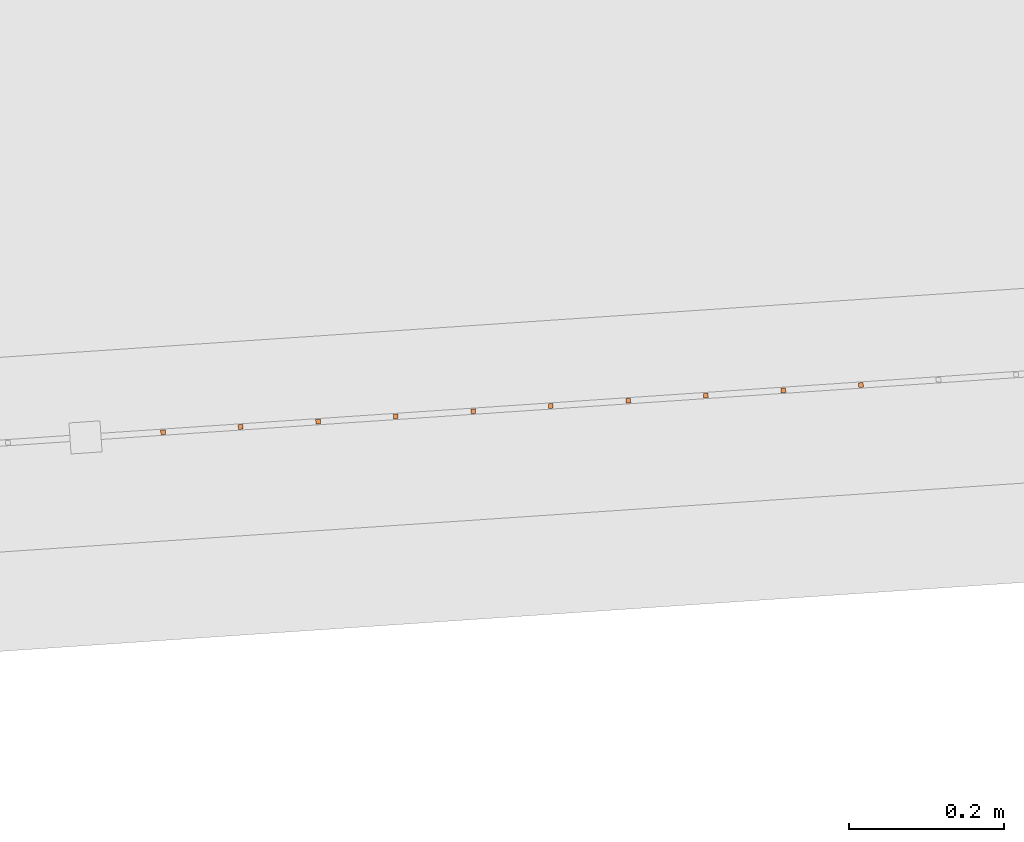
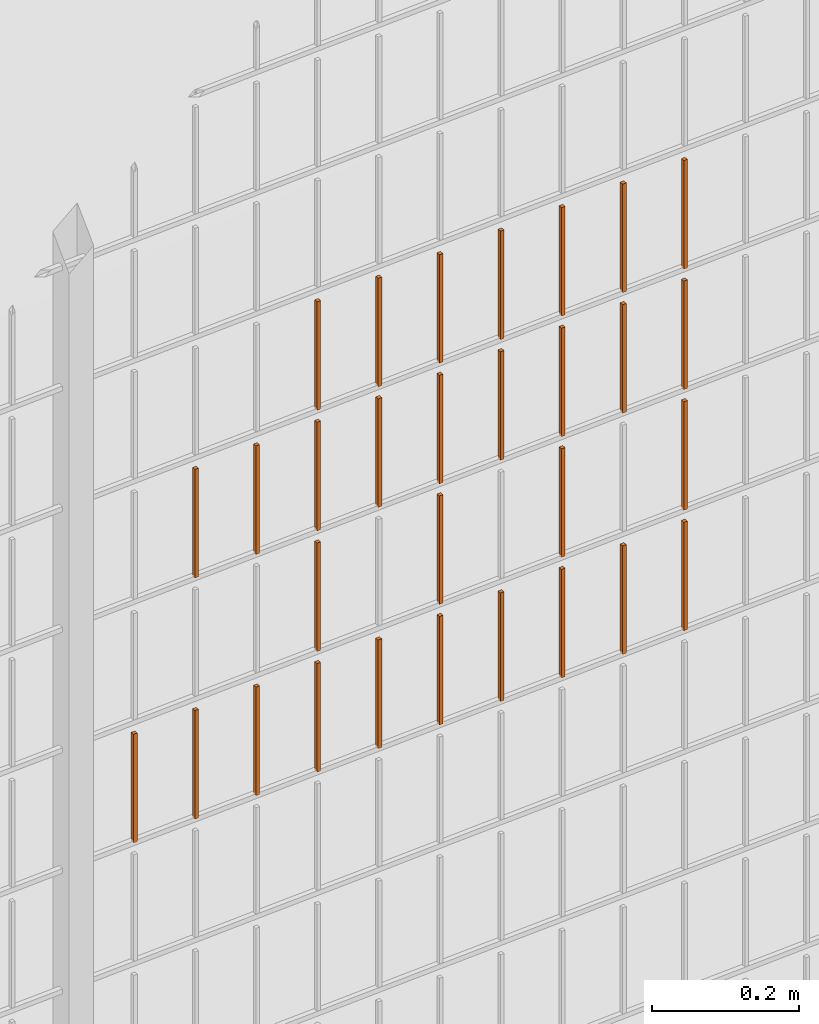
# One storey, part 211 of 1809: 30 proxies, 1 element without a shape of its own.
"""IFC2X3 building model written with IfcOpenShell, lengths in millimetres."""

from ifc_helpers import new_model, entity, si_unit, converted_unit, derived_unit, money_unit, direction, frame, origin_with_axes, place, context, subcontext, project, spatial, faceted_brep, source, transform, mapped, material, type_object, element, aggregate, save


model = new_model("IFC2X3")

# Units and contexts
model_context = context("Model", 3, precision=0.01, world=origin_with_axes(), true_north=direction((0.0, 1.0)))
body_context = subcontext(model_context, "Body", "Model", "MODEL_VIEW")
ifc_project = project(units=[si_unit("LENGTHUNIT", "METRE", prefix="MILLI"), si_unit("AREAUNIT", "SQUARE_METRE"), si_unit("VOLUMEUNIT", "CUBIC_METRE"), converted_unit("PLANEANGLEUNIT", "DEGREE", entity("IfcPlaneAngleMeasure", 0.0174532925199), si_unit("PLANEANGLEUNIT", "RADIAN"), dimensions=[0, 0, 0, 0, 0, 0, 0]), si_unit("SOLIDANGLEUNIT", "STERADIAN"), money_unit("EUR"), converted_unit("TIMEUNIT", "Year", entity("IfcTimeMeasure", 31556926.0), si_unit("TIMEUNIT", "SECOND"), dimensions=[0, 0, 1, 0, 0, 0, 0]), si_unit("MASSUNIT", "GRAM", prefix="KILO"), si_unit("THERMODYNAMICTEMPERATUREUNIT", "DEGREE_CELSIUS"), si_unit("LUMINOUSINTENSITYUNIT", "LUMEN"), si_unit("ENERGYUNIT", "JOULE", prefix="MEGA"), derived_unit("THERMALCONDUCTANCEUNIT", [(si_unit("POWERUNIT", "WATT"), 1), (si_unit("LENGTHUNIT", "METRE"), -1), (si_unit("THERMODYNAMICTEMPERATUREUNIT", "KELVIN"), -1)]), derived_unit("SPECIFICHEATCAPACITYUNIT", [(si_unit("ENERGYUNIT", "JOULE"), 1), (si_unit("MASSUNIT", "GRAM", prefix="KILO"), -1), (si_unit("THERMODYNAMICTEMPERATUREUNIT", "KELVIN"), -1)]), derived_unit("MASSDENSITYUNIT", [(si_unit("MASSUNIT", "GRAM", prefix="KILO"), 1), (si_unit("VOLUMEUNIT", "CUBIC_METRE"), -1)])], contexts=[model_context])

# Site, building, storey
site_placement = place(None, origin_with_axes())
site = spatial("IfcSite", under=ifc_project, at=site_placement, Name="Politse- ja Piirivalveameti ning Päästeameti ühishoone", CompositionType="ELEMENT")
building_placement = place(site_placement, origin_with_axes())
building = spatial("IfcBuilding", under=site, at=building_placement, Name="Politse- ja Piirivalveameti ning Päästeameti ühishoone", CompositionType="ELEMENT")
storey_placement = place(building_placement, origin_with_axes())
storey = spatial("IfcBuildingStorey", under=building, at=storey_placement, Name="Esimene korrus", CompositionType="ELEMENT", Elevation=0.0)

# Proxies
building_element_proxy_type_1 = type_object("IfcBuildingElementProxyType", Name="Railing Type", PredefinedType="NOTDEFINED")
proxy_1_placement = place(storey_placement, frame((89252.001212, -29183.4766571, 203.661247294), z_axis=(0.0, 0.0, 1.0), x_axis=(1.0, 0.0, 0.0)))
proxy_1 = element("IfcBuildingElementProxy", 1, at=proxy_1_placement, inside=storey, type_object=building_element_proxy_type_1, Name="PIIRDEAED")
ifc_material = material(Name="ET-03_Raud")
building_element_proxy_type_2 = type_object("IfcBuildingElementProxyType", Name="IfcBuildingElementProxy", PredefinedType="NOTDEFINED")
shared_shape_1 = source(origin_with_axes(), body_context, "Body", "Brep", [
    faceted_brep([(3.0, 3.0, -0.000752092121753), (-3.0, 3.0, -0.000752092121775), (-3.0, 3.0, 179.99926046), (3.0, 3.0, 179.99926046), (3.0, -3.0, 0.000752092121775), (-3.0, -3.0, 0.000752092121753), (-3.0, -3.0, 180.000764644), (3.0, -3.0, 180.000764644)], [[[0, 1, 2, 3]], [[0, 4, 5, 1]], [[1, 5, 6, 2]], [[3, 2, 6, 7]], [[4, 0, 3, 7]], [[5, 4, 7, 6]]]),
])
proxy_2_placement = place(proxy_1_placement, frame((-61187.2635985, -21430.7435053, 1211.85994589), z_axis=(0.0, 0.0, 1.0), x_axis=(1.0, 0.0, 0.0)))
proxy_2 = element("IfcBuildingElementProxy", 2, at=proxy_2_placement, type_object=building_element_proxy_type_2, material=ifc_material, Name="BALUSTER - 001", context=body_context, shape_type="MappedRepresentation", body=[
    mapped(shared_shape_1, transform((0.0, 0.0, 0.0), x_axis=(-0.0673926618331, 0.997726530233, 0.0), y_axis=(-0.997726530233, -0.0673926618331, 0.0), z_axis=(0.0, 0.0, 1.0))),
])
shared_shape_2 = source(origin_with_axes(), body_context, "Body", "Brep", [
    faceted_brep([(3.0, 3.0, -0.000752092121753), (-3.0, 3.0, -0.000752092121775), (-3.0, 3.0, 179.99926046), (3.0, 3.0, 179.99926046), (3.0, -3.0, 0.000752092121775), (-3.0, -3.0, 0.000752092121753), (-3.0, -3.0, 180.000764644), (3.0, -3.0, 180.000764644)], [[[0, 1, 2, 3]], [[0, 4, 5, 1]], [[1, 5, 6, 2]], [[3, 2, 6, 7]], [[4, 0, 3, 7]], [[5, 4, 7, 6]]]),
])
proxy_3_placement = place(proxy_1_placement, frame((-61187.2635985, -21430.7435053, 1411.85994589), z_axis=(0.0, 0.0, 1.0), x_axis=(1.0, 0.0, 0.0)))
proxy_3 = element("IfcBuildingElementProxy", 3, at=proxy_3_placement, type_object=building_element_proxy_type_2, material=ifc_material, Name="BALUSTER - 001", context=body_context, shape_type="MappedRepresentation", body=[
    mapped(shared_shape_2, transform((0.0, 0.0, 0.0), x_axis=(-0.0673926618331, 0.997726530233, 0.0), y_axis=(-0.997726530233, -0.0673926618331, 0.0), z_axis=(0.0, 0.0, 1.0))),
])
shared_shape_3 = source(origin_with_axes(), body_context, "Body", "Brep", [
    faceted_brep([(3.0, 3.0, -0.000752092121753), (-3.0, 3.0, -0.000752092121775), (-3.0, 3.0, 179.99926046), (3.0, 3.0, 179.99926046), (3.0, -3.0, 0.000752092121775), (-3.0, -3.0, 0.000752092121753), (-3.0, -3.0, 180.000764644), (3.0, -3.0, 180.000764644)], [[[0, 1, 2, 3]], [[0, 4, 5, 1]], [[1, 5, 6, 2]], [[3, 2, 6, 7]], [[4, 0, 3, 7]], [[5, 4, 7, 6]]]),
])
proxy_4_placement = place(proxy_1_placement, frame((-61287.0362515, -21437.4827715, 811.834876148), z_axis=(0.0, 0.0, 1.0), x_axis=(1.0, 0.0, 0.0)))
proxy_4 = element("IfcBuildingElementProxy", 4, at=proxy_4_placement, type_object=building_element_proxy_type_2, material=ifc_material, Name="BALUSTER - 001", context=body_context, shape_type="MappedRepresentation", body=[
    mapped(shared_shape_3, transform((0.0, 0.0, 0.0), x_axis=(-0.0673926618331, 0.997726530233, 0.0), y_axis=(-0.997726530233, -0.0673926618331, 0.0), z_axis=(0.0, 0.0, 1.0))),
])
shared_shape_4 = source(origin_with_axes(), body_context, "Body", "Brep", [
    faceted_brep([(3.0, 3.0, -0.000752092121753), (-3.0, 3.0, -0.000752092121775), (-3.0, 3.0, 179.99926046), (3.0, 3.0, 179.99926046), (3.0, -3.0, 0.000752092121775), (-3.0, -3.0, 0.000752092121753), (-3.0, -3.0, 180.000764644), (3.0, -3.0, 180.000764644)], [[[0, 1, 2, 3]], [[0, 4, 5, 1]], [[1, 5, 6, 2]], [[3, 2, 6, 7]], [[4, 0, 3, 7]], [[5, 4, 7, 6]]]),
])
proxy_5_placement = place(proxy_1_placement, frame((-61686.1268636, -21464.4398362, 1211.7345972), z_axis=(0.0, 0.0, 1.0), x_axis=(1.0, 0.0, 0.0)))
proxy_5 = element("IfcBuildingElementProxy", 5, at=proxy_5_placement, type_object=building_element_proxy_type_2, material=ifc_material, Name="BALUSTER - 001", context=body_context, shape_type="MappedRepresentation", body=[
    mapped(shared_shape_4, transform((0.0, 0.0, 0.0), x_axis=(-0.0673926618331, 0.997726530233, 0.0), y_axis=(-0.997726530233, -0.0673926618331, 0.0), z_axis=(0.0, 0.0, 1.0))),
])
shared_shape_5 = source(origin_with_axes(), body_context, "Body", "Brep", [
    faceted_brep([(3.0, 3.0, -0.000752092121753), (-3.0, 3.0, -0.000752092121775), (-3.0, 3.0, 179.99926046), (3.0, 3.0, 179.99926046), (3.0, -3.0, 0.000752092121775), (-3.0, -3.0, 0.000752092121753), (-3.0, -3.0, 180.000764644), (3.0, -3.0, 180.000764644)], [[[0, 1, 2, 3]], [[0, 4, 5, 1]], [[1, 5, 6, 2]], [[3, 2, 6, 7]], [[4, 0, 3, 7]], [[5, 4, 7, 6]]]),
])
proxy_6_placement = place(proxy_1_placement, frame((-61686.1268636, -21464.4398362, 1411.7345972), z_axis=(0.0, 0.0, 1.0), x_axis=(1.0, 0.0, 0.0)))
proxy_6 = element("IfcBuildingElementProxy", 6, at=proxy_6_placement, type_object=building_element_proxy_type_2, material=ifc_material, Name="BALUSTER - 001", context=body_context, shape_type="MappedRepresentation", body=[
    mapped(shared_shape_5, transform((0.0, 0.0, 0.0), x_axis=(-0.0673926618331, 0.997726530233, 0.0), y_axis=(-0.997726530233, -0.0673926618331, 0.0), z_axis=(0.0, 0.0, 1.0))),
])
shared_shape_6 = source(origin_with_axes(), body_context, "Body", "Brep", [
    faceted_brep([(3.0, 3.0, -0.000752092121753), (-3.0, 3.0, -0.000752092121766), (-3.00000000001, 3.00000000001, 179.99926046), (2.99999999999, 3.00000000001, 179.99926046), (3.0, -3.0, 0.000752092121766), (-3.0, -3.0, 0.000752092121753), (-3.00000000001, -2.99999999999, 180.000764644), (2.99999999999, -2.99999999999, 180.000764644)], [[[0, 1, 2, 3]], [[0, 4, 5, 1]], [[1, 5, 6, 2]], [[3, 2, 6, 7]], [[4, 0, 3, 7]], [[5, 4, 7, 6]]]),
])
proxy_7_placement = place(proxy_1_placement, frame((-61386.8089045, -21444.2220376, 1011.80980641), z_axis=(0.0, 0.0, 1.0), x_axis=(1.0, 0.0, 0.0)))
proxy_7 = element("IfcBuildingElementProxy", 7, at=proxy_7_placement, type_object=building_element_proxy_type_2, material=ifc_material, Name="BALUSTER - 001", context=body_context, shape_type="MappedRepresentation", body=[
    mapped(shared_shape_6, transform((0.0, 0.0, 0.0), x_axis=(-0.0673926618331, 0.997726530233, 0.0), y_axis=(-0.997726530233, -0.0673926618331, 0.0), z_axis=(0.0, 0.0, 1.0))),
])
shared_shape_7 = source(origin_with_axes(), body_context, "Body", "Brep", [
    faceted_brep([(3.0, 3.0, -0.000752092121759), (-3.0, 3.0, -0.000752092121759), (-3.0, 3.0, 179.99926046), (3.0, 3.0, 179.99926046), (3.0, -3.0, 0.000752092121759), (-3.0, -3.0, 0.000752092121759), (-3.0, -3.0, 180.000764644), (3.0, -3.0, 180.000764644)], [[[0, 1, 2, 3]], [[0, 4, 5, 1]], [[1, 5, 6, 2]], [[3, 2, 6, 7]], [[4, 0, 3, 7]], [[5, 4, 7, 6]]]),
])
proxy_8_placement = place(proxy_1_placement, frame((-61486.5815575, -21450.9613038, 1211.78473667), z_axis=(0.0, 0.0, 1.0), x_axis=(1.0, 0.0, 0.0)))
proxy_8 = element("IfcBuildingElementProxy", 8, at=proxy_8_placement, type_object=building_element_proxy_type_2, material=ifc_material, Name="BALUSTER - 001", context=body_context, shape_type="MappedRepresentation", body=[
    mapped(shared_shape_7, transform((0.0, 0.0, 0.0), x_axis=(-0.0673926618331, 0.997726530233, 0.0), y_axis=(-0.997726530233, -0.0673926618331, 0.0), z_axis=(0.0, 0.0, 1.0))),
])
shared_shape_8 = source(origin_with_axes(), body_context, "Body", "Brep", [
    faceted_brep([(3.0, 3.0, -0.000752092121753), (-3.0, 3.0, -0.000752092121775), (-3.0, 3.0, 179.99926046), (3.0, 3.0, 179.99926046), (3.0, -3.0, 0.000752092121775), (-3.0, -3.0, 0.000752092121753), (-3.0, -3.0, 180.000764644), (3.0, -3.0, 180.000764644)], [[[0, 1, 2, 3]], [[0, 4, 5, 1]], [[1, 5, 6, 2]], [[3, 2, 6, 7]], [[4, 0, 3, 7]], [[5, 4, 7, 6]]]),
])
proxy_9_placement = place(proxy_1_placement, frame((-61187.2635985, -21430.7435053, 811.859945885), z_axis=(0.0, 0.0, 1.0), x_axis=(1.0, 0.0, 0.0)))
proxy_9 = element("IfcBuildingElementProxy", 9, at=proxy_9_placement, type_object=building_element_proxy_type_2, material=ifc_material, Name="BALUSTER - 001", context=body_context, shape_type="MappedRepresentation", body=[
    mapped(shared_shape_8, transform((0.0, 0.0, 0.0), x_axis=(-0.0673926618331, 0.997726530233, 0.0), y_axis=(-0.997726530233, -0.0673926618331, 0.0), z_axis=(0.0, 0.0, 1.0))),
])
shared_shape_9 = source(origin_with_axes(), body_context, "Body", "Brep", [
    faceted_brep([(3.0, 3.0, -0.000752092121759), (-3.0, 3.0, -0.000752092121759), (-3.0, 3.0, 179.99926046), (3.0, 3.0, 179.99926046), (3.0, -3.0, 0.000752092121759), (-3.0, -3.0, 0.000752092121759), (-3.0, -3.0, 180.000764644), (3.0, -3.0, 180.000764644)], [[[0, 1, 2, 3]], [[0, 4, 5, 1]], [[1, 5, 6, 2]], [[3, 2, 6, 7]], [[4, 0, 3, 7]], [[5, 4, 7, 6]]]),
])
proxy_10_placement = place(proxy_1_placement, frame((-61586.3542106, -21457.70057, 811.759666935), z_axis=(0.0, 0.0, 1.0), x_axis=(1.0, 0.0, 0.0)))
proxy_10 = element("IfcBuildingElementProxy", 10, at=proxy_10_placement, type_object=building_element_proxy_type_2, material=ifc_material, Name="BALUSTER - 001", context=body_context, shape_type="MappedRepresentation", body=[
    mapped(shared_shape_9, transform((0.0, 0.0, 0.0), x_axis=(-0.0673926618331, 0.997726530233, 0.0), y_axis=(-0.997726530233, -0.0673926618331, 0.0), z_axis=(0.0, 0.0, 1.0))),
])
shared_shape_10 = source(origin_with_axes(), body_context, "Body", "Brep", [
    faceted_brep([(3.0, 3.0, -0.000752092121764), (-3.0, 3.0, -0.000752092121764), (-3.0, 3.0, 179.99926046), (3.0, 3.0, 179.99926046), (3.0, -3.0, 0.000752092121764), (-3.0, -3.0, 0.000752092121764), (-3.0, -3.0, 180.000764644), (3.0, -3.0, 180.000764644)], [[[0, 1, 2, 3]], [[0, 4, 5, 1]], [[1, 5, 6, 2]], [[3, 2, 6, 7]], [[4, 0, 3, 7]], [[5, 4, 7, 6]]]),
])
proxy_11_placement = place(proxy_1_placement, frame((-61785.8995166, -21471.1791024, 1211.70952746), z_axis=(0.0, 0.0, 1.0), x_axis=(1.0, 0.0, 0.0)))
proxy_11 = element("IfcBuildingElementProxy", 11, at=proxy_11_placement, type_object=building_element_proxy_type_2, material=ifc_material, Name="BALUSTER - 001", context=body_context, shape_type="MappedRepresentation", body=[
    mapped(shared_shape_10, transform((0.0, 0.0, 0.0), x_axis=(-0.0673926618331, 0.997726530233, 0.0), y_axis=(-0.997726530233, -0.0673926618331, 0.0), z_axis=(0.0, 0.0, 1.0))),
])
shared_shape_11 = source(origin_with_axes(), body_context, "Body", "Brep", [
    faceted_brep([(3.0, 3.0, -0.000752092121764), (-3.0, 3.0, -0.000752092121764), (-3.0, 3.0, 179.99926046), (3.0, 3.0, 179.99926046), (3.0, -3.0, 0.000752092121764), (-3.0, -3.0, 0.000752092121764), (-3.0, -3.0, 180.000764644), (3.0, -3.0, 180.000764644)], [[[0, 1, 2, 3]], [[0, 4, 5, 1]], [[1, 5, 6, 2]], [[3, 2, 6, 7]], [[4, 0, 3, 7]], [[5, 4, 7, 6]]]),
])
proxy_12_placement = place(proxy_1_placement, frame((-61386.8089045, -21444.2220376, 1211.80980641), z_axis=(0.0, 0.0, 1.0), x_axis=(1.0, 0.0, 0.0)))
proxy_12 = element("IfcBuildingElementProxy", 12, at=proxy_12_placement, type_object=building_element_proxy_type_2, material=ifc_material, Name="BALUSTER - 001", context=body_context, shape_type="MappedRepresentation", body=[
    mapped(shared_shape_11, transform((0.0, 0.0, 0.0), x_axis=(-0.0673926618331, 0.997726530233, 0.0), y_axis=(-0.997726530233, -0.0673926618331, 0.0), z_axis=(0.0, 0.0, 1.0))),
])
shared_shape_12 = source(origin_with_axes(), body_context, "Body", "Brep", [
    faceted_brep([(3.0, 3.0, -0.000752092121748), (-3.0, 3.0, -0.00075209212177), (-3.0, 3.0, 179.99926046), (3.0, 3.0, 179.99926046), (3.0, -3.0, 0.00075209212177), (-3.0, -3.0, 0.000752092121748), (-3.0, -3.0, 180.000764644), (3.0, -3.0, 180.000764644)], [[[0, 1, 2, 3]], [[0, 4, 5, 1]], [[1, 5, 6, 2]], [[3, 2, 6, 7]], [[4, 0, 3, 7]], [[5, 4, 7, 6]]]),
])
proxy_13_placement = place(proxy_1_placement, frame((-61686.1268636, -21464.4398362, 811.734597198), z_axis=(0.0, 0.0, 1.0), x_axis=(1.0, 0.0, 0.0)))
proxy_13 = element("IfcBuildingElementProxy", 13, at=proxy_13_placement, type_object=building_element_proxy_type_2, material=ifc_material, Name="BALUSTER - 001", context=body_context, shape_type="MappedRepresentation", body=[
    mapped(shared_shape_12, transform((0.0, 0.0, 0.0), x_axis=(-0.0673926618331, 0.997726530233, 0.0), y_axis=(-0.997726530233, -0.0673926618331, 0.0), z_axis=(0.0, 0.0, 1.0))),
])
shared_shape_13 = source(origin_with_axes(), body_context, "Body", "Brep", [
    faceted_brep([(3.0, 3.0, -0.000752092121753), (-3.0, 3.0, -0.000752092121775), (-3.0, 3.0, 179.99926046), (3.0, 3.0, 179.99926046), (3.0, -3.0, 0.000752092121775), (-3.0, -3.0, 0.000752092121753), (-3.0, -3.0, 180.000764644), (3.0, -3.0, 180.000764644)], [[[0, 1, 2, 3]], [[0, 4, 5, 1]], [[1, 5, 6, 2]], [[3, 2, 6, 7]], [[4, 0, 3, 7]], [[5, 4, 7, 6]]]),
])
proxy_14_placement = place(proxy_1_placement, frame((-61885.6721696, -21477.9183686, 811.684457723), z_axis=(0.0, 0.0, 1.0), x_axis=(1.0, 0.0, 0.0)))
proxy_14 = element("IfcBuildingElementProxy", 14, at=proxy_14_placement, type_object=building_element_proxy_type_2, material=ifc_material, Name="BALUSTER - 001", context=body_context, shape_type="MappedRepresentation", body=[
    mapped(shared_shape_13, transform((0.0, 0.0, 0.0), x_axis=(-0.0673926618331, 0.997726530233, 0.0), y_axis=(-0.997726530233, -0.0673926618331, 0.0), z_axis=(0.0, 0.0, 1.0))),
])
shared_shape_14 = source(origin_with_axes(), body_context, "Body", "Brep", [
    faceted_brep([(3.0, 3.0, -0.000752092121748), (-3.0, 3.0, -0.00075209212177), (-3.0, 3.0, 179.99926046), (3.0, 3.0, 179.99926046), (3.0, -3.0, 0.00075209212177), (-3.0, -3.0, 0.000752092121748), (-3.0, -3.0, 180.000764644), (3.0, -3.0, 180.000764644)], [[[0, 1, 2, 3]], [[0, 4, 5, 1]], [[1, 5, 6, 2]], [[3, 2, 6, 7]], [[4, 0, 3, 7]], [[5, 4, 7, 6]]]),
])
proxy_15_placement = place(proxy_1_placement, frame((-61586.3542106, -21457.70057, 1211.75966694), z_axis=(0.0, 0.0, 1.0), x_axis=(1.0, 0.0, 0.0)))
proxy_15 = element("IfcBuildingElementProxy", 15, at=proxy_15_placement, type_object=building_element_proxy_type_2, material=ifc_material, Name="BALUSTER - 001", context=body_context, shape_type="MappedRepresentation", body=[
    mapped(shared_shape_14, transform((0.0, 0.0, 0.0), x_axis=(-0.0673926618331, 0.997726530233, 0.0), y_axis=(-0.997726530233, -0.0673926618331, 0.0), z_axis=(0.0, 0.0, 1.0))),
])
shared_shape_15 = source(origin_with_axes(), body_context, "Body", "Brep", [
    faceted_brep([(3.0, 3.0, -0.000752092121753), (-3.0, 3.0, -0.000752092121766), (-3.00000000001, 3.00000000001, 179.99926046), (2.99999999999, 3.00000000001, 179.99926046), (3.0, -3.0, 0.000752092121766), (-3.0, -3.0, 0.000752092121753), (-3.00000000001, -2.99999999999, 180.000764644), (2.99999999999, -2.99999999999, 180.000764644)], [[[0, 1, 2, 3]], [[0, 4, 5, 1]], [[1, 5, 6, 2]], [[3, 2, 6, 7]], [[4, 0, 3, 7]], [[5, 4, 7, 6]]]),
])
proxy_16_placement = place(proxy_1_placement, frame((-61785.8995166, -21471.1791024, 1011.70952746), z_axis=(0.0, 0.0, 1.0), x_axis=(1.0, 0.0, 0.0)))
proxy_16 = element("IfcBuildingElementProxy", 16, at=proxy_16_placement, type_object=building_element_proxy_type_2, material=ifc_material, Name="BALUSTER - 001", context=body_context, shape_type="MappedRepresentation", body=[
    mapped(shared_shape_15, transform((0.0, 0.0, 0.0), x_axis=(-0.0673926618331, 0.997726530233, 0.0), y_axis=(-0.997726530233, -0.0673926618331, 0.0), z_axis=(0.0, 0.0, 1.0))),
])
shared_shape_16 = source(origin_with_axes(), body_context, "Body", "Brep", [
    faceted_brep([(3.0, 3.0, -0.000752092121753), (-3.0, 3.0, -0.000752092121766), (-3.00000000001, 3.00000000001, 179.99926046), (2.99999999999, 3.00000000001, 179.99926046), (3.0, -3.0, 0.000752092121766), (-3.0, -3.0, 0.000752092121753), (-3.00000000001, -2.99999999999, 180.000764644), (2.99999999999, -2.99999999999, 180.000764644)], [[[0, 1, 2, 3]], [[0, 4, 5, 1]], [[1, 5, 6, 2]], [[3, 2, 6, 7]], [[4, 0, 3, 7]], [[5, 4, 7, 6]]]),
])
proxy_17_placement = place(proxy_1_placement, frame((-61187.2635985, -21430.7435053, 1011.85994589), z_axis=(0.0, 0.0, 1.0), x_axis=(1.0, 0.0, 0.0)))
proxy_17 = element("IfcBuildingElementProxy", 17, at=proxy_17_placement, type_object=building_element_proxy_type_2, material=ifc_material, Name="BALUSTER - 001", context=body_context, shape_type="MappedRepresentation", body=[
    mapped(shared_shape_16, transform((0.0, 0.0, 0.0), x_axis=(-0.0673926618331, 0.997726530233, 0.0), y_axis=(-0.997726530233, -0.0673926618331, 0.0), z_axis=(0.0, 0.0, 1.0))),
])
shared_shape_17 = source(origin_with_axes(), body_context, "Body", "Brep", [
    faceted_brep([(3.0, 3.0, -0.000752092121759), (-3.0, 3.0, -0.000752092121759), (-3.0, 3.0, 179.99926046), (3.0, 3.0, 179.99926046), (3.0, -3.0, 0.000752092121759), (-3.0, -3.0, 0.000752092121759), (-3.0, -3.0, 180.000764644), (3.0, -3.0, 180.000764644)], [[[0, 1, 2, 3]], [[0, 4, 5, 1]], [[1, 5, 6, 2]], [[3, 2, 6, 7]], [[4, 0, 3, 7]], [[5, 4, 7, 6]]]),
])
proxy_18_placement = place(proxy_1_placement, frame((-62085.2174757, -21491.3969009, 811.634318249), z_axis=(0.0, 0.0, 1.0), x_axis=(1.0, 0.0, 0.0)))
proxy_18 = element("IfcBuildingElementProxy", 18, at=proxy_18_placement, type_object=building_element_proxy_type_2, material=ifc_material, Name="BALUSTER - 001", context=body_context, shape_type="MappedRepresentation", body=[
    mapped(shared_shape_17, transform((0.0, 0.0, 0.0), x_axis=(-0.0673926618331, 0.997726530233, 0.0), y_axis=(-0.997726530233, -0.0673926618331, 0.0), z_axis=(0.0, 0.0, 1.0))),
])
shared_shape_18 = source(origin_with_axes(), body_context, "Body", "Brep", [
    faceted_brep([(3.0, 3.0, -0.000752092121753), (-3.0, 3.0, -0.000752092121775), (-3.0, 3.0, 179.99926046), (3.0, 3.0, 179.99926046), (3.0, -3.0, 0.000752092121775), (-3.0, -3.0, 0.000752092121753), (-3.0, -3.0, 180.000764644), (3.0, -3.0, 180.000764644)], [[[0, 1, 2, 3]], [[0, 4, 5, 1]], [[1, 5, 6, 2]], [[3, 2, 6, 7]], [[4, 0, 3, 7]], [[5, 4, 7, 6]]]),
])
proxy_19_placement = place(proxy_1_placement, frame((-61985.4448227, -21484.6576347, 1211.65938799), z_axis=(0.0, 0.0, 1.0), x_axis=(1.0, 0.0, 0.0)))
proxy_19 = element("IfcBuildingElementProxy", 19, at=proxy_19_placement, type_object=building_element_proxy_type_2, material=ifc_material, Name="BALUSTER - 001", context=body_context, shape_type="MappedRepresentation", body=[
    mapped(shared_shape_18, transform((0.0, 0.0, 0.0), x_axis=(-0.0673926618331, 0.997726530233, 0.0), y_axis=(-0.997726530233, -0.0673926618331, 0.0), z_axis=(0.0, 0.0, 1.0))),
])
shared_shape_19 = source(origin_with_axes(), body_context, "Body", "Brep", [
    faceted_brep([(3.0, 3.0, -0.000752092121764), (-3.0, 3.0, -0.000752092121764), (-3.0, 3.0, 179.99926046), (3.0, 3.0, 179.99926046), (3.0, -3.0, 0.000752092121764), (-3.0, -3.0, 0.000752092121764), (-3.0, -3.0, 180.000764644), (3.0, -3.0, 180.000764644)], [[[0, 1, 2, 3]], [[0, 4, 5, 1]], [[1, 5, 6, 2]], [[3, 2, 6, 7]], [[4, 0, 3, 7]], [[5, 4, 7, 6]]]),
])
proxy_20_placement = place(proxy_1_placement, frame((-61785.8995166, -21471.1791024, 1411.70952746), z_axis=(0.0, 0.0, 1.0), x_axis=(1.0, 0.0, 0.0)))
proxy_20 = element("IfcBuildingElementProxy", 20, at=proxy_20_placement, type_object=building_element_proxy_type_2, material=ifc_material, Name="BALUSTER - 001", context=body_context, shape_type="MappedRepresentation", body=[
    mapped(shared_shape_19, transform((0.0, 0.0, 0.0), x_axis=(-0.0673926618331, 0.997726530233, 0.0), y_axis=(-0.997726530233, -0.0673926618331, 0.0), z_axis=(0.0, 0.0, 1.0))),
])
shared_shape_20 = source(origin_with_axes(), body_context, "Body", "Brep", [
    faceted_brep([(3.0, 3.0, -0.000752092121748), (-3.0, 3.0, -0.00075209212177), (-3.0, 3.0, 179.99926046), (3.0, 3.0, 179.99926046), (3.0, -3.0, 0.00075209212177), (-3.0, -3.0, 0.000752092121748), (-3.0, -3.0, 180.000764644), (3.0, -3.0, 180.000764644)], [[[0, 1, 2, 3]], [[0, 4, 5, 1]], [[1, 5, 6, 2]], [[3, 2, 6, 7]], [[4, 0, 3, 7]], [[5, 4, 7, 6]]]),
])
proxy_21_placement = place(proxy_1_placement, frame((-61586.3542106, -21457.70057, 1411.75966694), z_axis=(0.0, 0.0, 1.0), x_axis=(1.0, 0.0, 0.0)))
proxy_21 = element("IfcBuildingElementProxy", 21, at=proxy_21_placement, type_object=building_element_proxy_type_2, material=ifc_material, Name="BALUSTER - 001", context=body_context, shape_type="MappedRepresentation", body=[
    mapped(shared_shape_20, transform((0.0, 0.0, 0.0), x_axis=(-0.0673926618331, 0.997726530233, 0.0), y_axis=(-0.997726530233, -0.0673926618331, 0.0), z_axis=(0.0, 0.0, 1.0))),
])
shared_shape_21 = source(origin_with_axes(), body_context, "Body", "Brep", [
    faceted_brep([(3.0, 3.0, -0.000752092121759), (-3.0, 3.0, -0.000752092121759), (-3.0, 3.0, 179.99926046), (3.0, 3.0, 179.99926046), (3.0, -3.0, 0.000752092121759), (-3.0, -3.0, 0.000752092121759), (-3.0, -3.0, 180.000764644), (3.0, -3.0, 180.000764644)], [[[0, 1, 2, 3]], [[0, 4, 5, 1]], [[1, 5, 6, 2]], [[3, 2, 6, 7]], [[4, 0, 3, 7]], [[5, 4, 7, 6]]]),
])
proxy_22_placement = place(proxy_1_placement, frame((-61486.5815575, -21450.9613038, 1411.78473667), z_axis=(0.0, 0.0, 1.0), x_axis=(1.0, 0.0, 0.0)))
proxy_22 = element("IfcBuildingElementProxy", 22, at=proxy_22_placement, type_object=building_element_proxy_type_2, material=ifc_material, Name="BALUSTER - 001", context=body_context, shape_type="MappedRepresentation", body=[
    mapped(shared_shape_21, transform((0.0, 0.0, 0.0), x_axis=(-0.0673926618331, 0.997726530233, 0.0), y_axis=(-0.997726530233, -0.0673926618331, 0.0), z_axis=(0.0, 0.0, 1.0))),
])
shared_shape_22 = source(origin_with_axes(), body_context, "Body", "Brep", [
    faceted_brep([(3.0, 3.0, -0.000752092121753), (-3.0, 3.0, -0.000752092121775), (-3.0, 3.0, 179.99926046), (3.0, 3.0, 179.99926046), (3.0, -3.0, 0.000752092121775), (-3.0, -3.0, 0.000752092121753), (-3.0, -3.0, 180.000764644), (3.0, -3.0, 180.000764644)], [[[0, 1, 2, 3]], [[0, 4, 5, 1]], [[1, 5, 6, 2]], [[3, 2, 6, 7]], [[4, 0, 3, 7]], [[5, 4, 7, 6]]]),
])
proxy_23_placement = place(proxy_1_placement, frame((-61985.4448227, -21484.6576347, 811.659387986), z_axis=(0.0, 0.0, 1.0), x_axis=(1.0, 0.0, 0.0)))
proxy_23 = element("IfcBuildingElementProxy", 23, at=proxy_23_placement, type_object=building_element_proxy_type_2, material=ifc_material, Name="BALUSTER - 001", context=body_context, shape_type="MappedRepresentation", body=[
    mapped(shared_shape_22, transform((0.0, 0.0, 0.0), x_axis=(-0.0673926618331, 0.997726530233, 0.0), y_axis=(-0.997726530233, -0.0673926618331, 0.0), z_axis=(0.0, 0.0, 1.0))),
])
shared_shape_23 = source(origin_with_axes(), body_context, "Body", "Brep", [
    faceted_brep([(3.0, 3.0, -0.000752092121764), (-3.0, 3.0, -0.000752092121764), (-3.0, 3.0, 179.99926046), (3.0, 3.0, 179.99926046), (3.0, -3.0, 0.000752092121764), (-3.0, -3.0, 0.000752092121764), (-3.0, -3.0, 180.000764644), (3.0, -3.0, 180.000764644)], [[[0, 1, 2, 3]], [[0, 4, 5, 1]], [[1, 5, 6, 2]], [[3, 2, 6, 7]], [[4, 0, 3, 7]], [[5, 4, 7, 6]]]),
])
proxy_24_placement = place(proxy_1_placement, frame((-61287.0362515, -21437.4827715, 1211.83487615), z_axis=(0.0, 0.0, 1.0), x_axis=(1.0, 0.0, 0.0)))
proxy_24 = element("IfcBuildingElementProxy", 24, at=proxy_24_placement, type_object=building_element_proxy_type_2, material=ifc_material, Name="BALUSTER - 001", context=body_context, shape_type="MappedRepresentation", body=[
    mapped(shared_shape_23, transform((0.0, 0.0, 0.0), x_axis=(-0.0673926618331, 0.997726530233, 0.0), y_axis=(-0.997726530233, -0.0673926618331, 0.0), z_axis=(0.0, 0.0, 1.0))),
])
shared_shape_24 = source(origin_with_axes(), body_context, "Body", "Brep", [
    faceted_brep([(3.0, 3.0, -0.000752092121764), (-3.0, 3.0, -0.000752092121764), (-3.0, 3.0, 179.99926046), (3.0, 3.0, 179.99926046), (3.0, -3.0, 0.000752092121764), (-3.0, -3.0, 0.000752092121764), (-3.0, -3.0, 180.000764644), (3.0, -3.0, 180.000764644)], [[[0, 1, 2, 3]], [[0, 4, 5, 1]], [[1, 5, 6, 2]], [[3, 2, 6, 7]], [[4, 0, 3, 7]], [[5, 4, 7, 6]]]),
])
proxy_25_placement = place(proxy_1_placement, frame((-61885.6721696, -21477.9183686, 1211.68445772), z_axis=(0.0, 0.0, 1.0), x_axis=(1.0, 0.0, 0.0)))
proxy_25 = element("IfcBuildingElementProxy", 25, at=proxy_25_placement, type_object=building_element_proxy_type_2, material=ifc_material, Name="BALUSTER - 001", context=body_context, shape_type="MappedRepresentation", body=[
    mapped(shared_shape_24, transform((0.0, 0.0, 0.0), x_axis=(-0.0673926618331, 0.997726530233, 0.0), y_axis=(-0.997726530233, -0.0673926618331, 0.0), z_axis=(0.0, 0.0, 1.0))),
])
shared_shape_25 = source(origin_with_axes(), body_context, "Body", "Brep", [
    faceted_brep([(3.0, 3.0, -0.000752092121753), (-3.0, 3.0, -0.000752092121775), (-3.0, 3.0, 179.99926046), (3.0, 3.0, 179.99926046), (3.0, -3.0, 0.000752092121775), (-3.0, -3.0, 0.000752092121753), (-3.0, -3.0, 180.000764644), (3.0, -3.0, 180.000764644)], [[[0, 1, 2, 3]], [[0, 4, 5, 1]], [[1, 5, 6, 2]], [[3, 2, 6, 7]], [[4, 0, 3, 7]], [[5, 4, 7, 6]]]),
])
proxy_26_placement = place(proxy_1_placement, frame((-61386.8089045, -21444.2220376, 811.80980641), z_axis=(0.0, 0.0, 1.0), x_axis=(1.0, 0.0, 0.0)))
proxy_26 = element("IfcBuildingElementProxy", 26, at=proxy_26_placement, type_object=building_element_proxy_type_2, material=ifc_material, Name="BALUSTER - 001", context=body_context, shape_type="MappedRepresentation", body=[
    mapped(shared_shape_25, transform((0.0, 0.0, 0.0), x_axis=(-0.0673926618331, 0.997726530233, 0.0), y_axis=(-0.997726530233, -0.0673926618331, 0.0), z_axis=(0.0, 0.0, 1.0))),
])
shared_shape_26 = source(origin_with_axes(), body_context, "Body", "Brep", [
    faceted_brep([(3.0, 3.0, -0.000752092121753), (-3.0, 3.0, -0.000752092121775), (-3.0, 3.0, 179.99926046), (3.0, 3.0, 179.99926046), (3.0, -3.0, 0.000752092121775), (-3.0, -3.0, 0.000752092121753), (-3.0, -3.0, 180.000764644), (3.0, -3.0, 180.000764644)], [[[0, 1, 2, 3]], [[0, 4, 5, 1]], [[1, 5, 6, 2]], [[3, 2, 6, 7]], [[4, 0, 3, 7]], [[5, 4, 7, 6]]]),
])
proxy_27_placement = place(proxy_1_placement, frame((-61486.5815575, -21450.9613038, 811.784736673), z_axis=(0.0, 0.0, 1.0), x_axis=(1.0, 0.0, 0.0)))
proxy_27 = element("IfcBuildingElementProxy", 27, at=proxy_27_placement, type_object=building_element_proxy_type_2, material=ifc_material, Name="BALUSTER - 001", context=body_context, shape_type="MappedRepresentation", body=[
    mapped(shared_shape_26, transform((0.0, 0.0, 0.0), x_axis=(-0.0673926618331, 0.997726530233, 0.0), y_axis=(-0.997726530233, -0.0673926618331, 0.0), z_axis=(0.0, 0.0, 1.0))),
])
shared_shape_27 = source(origin_with_axes(), body_context, "Body", "Brep", [
    faceted_brep([(3.0, 3.0, -0.000752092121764), (-3.0, 3.0, -0.000752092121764), (-3.0, 3.0, 179.99926046), (3.0, 3.0, 179.99926046), (3.0, -3.0, 0.000752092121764), (-3.0, -3.0, 0.000752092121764), (-3.0, -3.0, 180.000764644), (3.0, -3.0, 180.000764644)], [[[0, 1, 2, 3]], [[0, 4, 5, 1]], [[1, 5, 6, 2]], [[3, 2, 6, 7]], [[4, 0, 3, 7]], [[5, 4, 7, 6]]]),
])
proxy_28_placement = place(proxy_1_placement, frame((-61785.8995166, -21471.1791024, 811.709527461), z_axis=(0.0, 0.0, 1.0), x_axis=(1.0, 0.0, 0.0)))
proxy_28 = element("IfcBuildingElementProxy", 28, at=proxy_28_placement, type_object=building_element_proxy_type_2, material=ifc_material, Name="BALUSTER - 001", context=body_context, shape_type="MappedRepresentation", body=[
    mapped(shared_shape_27, transform((0.0, 0.0, 0.0), x_axis=(-0.0673926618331, 0.997726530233, 0.0), y_axis=(-0.997726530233, -0.0673926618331, 0.0), z_axis=(0.0, 0.0, 1.0))),
])
shared_shape_28 = source(origin_with_axes(), body_context, "Body", "Brep", [
    faceted_brep([(3.0, 3.0, -0.000752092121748), (-3.0, 3.0, -0.00075209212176), (-3.00000000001, 3.00000000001, 179.99926046), (2.99999999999, 3.00000000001, 179.99926046), (3.0, -3.0, 0.00075209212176), (-3.0, -3.0, 0.000752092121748), (-3.00000000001, -2.99999999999, 180.000764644), (2.99999999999, -2.99999999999, 180.000764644)], [[[0, 1, 2, 3]], [[0, 4, 5, 1]], [[1, 5, 6, 2]], [[3, 2, 6, 7]], [[4, 0, 3, 7]], [[5, 4, 7, 6]]]),
])
proxy_29_placement = place(proxy_1_placement, frame((-61586.3542106, -21457.70057, 1011.75966694), z_axis=(0.0, 0.0, 1.0), x_axis=(1.0, 0.0, 0.0)))
proxy_29 = element("IfcBuildingElementProxy", 29, at=proxy_29_placement, type_object=building_element_proxy_type_2, material=ifc_material, Name="BALUSTER - 001", context=body_context, shape_type="MappedRepresentation", body=[
    mapped(shared_shape_28, transform((0.0, 0.0, 0.0), x_axis=(-0.0673926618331, 0.997726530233, 0.0), y_axis=(-0.997726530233, -0.0673926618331, 0.0), z_axis=(0.0, 0.0, 1.0))),
])
shared_shape_29 = source(origin_with_axes(), body_context, "Body", "Brep", [
    faceted_brep([(3.0, 3.0, -0.000752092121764), (-3.0, 3.0, -0.000752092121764), (-3.0, 3.0, 179.99926046), (3.0, 3.0, 179.99926046), (3.0, -3.0, 0.000752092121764), (-3.0, -3.0, 0.000752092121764), (-3.0, -3.0, 180.000764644), (3.0, -3.0, 180.000764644)], [[[0, 1, 2, 3]], [[0, 4, 5, 1]], [[1, 5, 6, 2]], [[3, 2, 6, 7]], [[4, 0, 3, 7]], [[5, 4, 7, 6]]]),
])
proxy_30_placement = place(proxy_1_placement, frame((-61287.0362515, -21437.4827715, 1411.83487615), z_axis=(0.0, 0.0, 1.0), x_axis=(1.0, 0.0, 0.0)))
proxy_30 = element("IfcBuildingElementProxy", 30, at=proxy_30_placement, type_object=building_element_proxy_type_2, material=ifc_material, Name="BALUSTER - 001", context=body_context, shape_type="MappedRepresentation", body=[
    mapped(shared_shape_29, transform((0.0, 0.0, 0.0), x_axis=(-0.0673926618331, 0.997726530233, 0.0), y_axis=(-0.997726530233, -0.0673926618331, 0.0), z_axis=(0.0, 0.0, 1.0))),
])
shared_shape_30 = source(origin_with_axes(), body_context, "Body", "Brep", [
    faceted_brep([(3.0, 3.0, -0.000752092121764), (-3.0, 3.0, -0.000752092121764), (-3.0, 3.0, 179.99926046), (3.0, 3.0, 179.99926046), (3.0, -3.0, 0.000752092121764), (-3.0, -3.0, 0.000752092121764), (-3.0, -3.0, 180.000764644), (3.0, -3.0, 180.000764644)], [[[0, 1, 2, 3]], [[0, 4, 5, 1]], [[1, 5, 6, 2]], [[3, 2, 6, 7]], [[4, 0, 3, 7]], [[5, 4, 7, 6]]]),
])
proxy_31_placement = place(proxy_1_placement, frame((-61386.8089045, -21444.2220376, 1411.80980641), z_axis=(0.0, 0.0, 1.0), x_axis=(1.0, 0.0, 0.0)))
proxy_31 = element("IfcBuildingElementProxy", 31, at=proxy_31_placement, type_object=building_element_proxy_type_2, material=ifc_material, Name="BALUSTER - 001", context=body_context, shape_type="MappedRepresentation", body=[
    mapped(shared_shape_30, transform((0.0, 0.0, 0.0), x_axis=(-0.0673926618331, 0.997726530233, 0.0), y_axis=(-0.997726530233, -0.0673926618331, 0.0), z_axis=(0.0, 0.0, 1.0))),
])
aggregate(proxy_1, [proxy_9, proxy_4, proxy_26, proxy_27, proxy_10, proxy_13, proxy_28, proxy_14, proxy_23, proxy_18, proxy_17, proxy_7, proxy_29, proxy_16, proxy_2, proxy_24, proxy_12, proxy_8, proxy_15, proxy_5, proxy_11, proxy_25, proxy_19, proxy_3, proxy_30, proxy_31, proxy_22, proxy_21, proxy_6, proxy_20])

save(model, "model.ifc")
